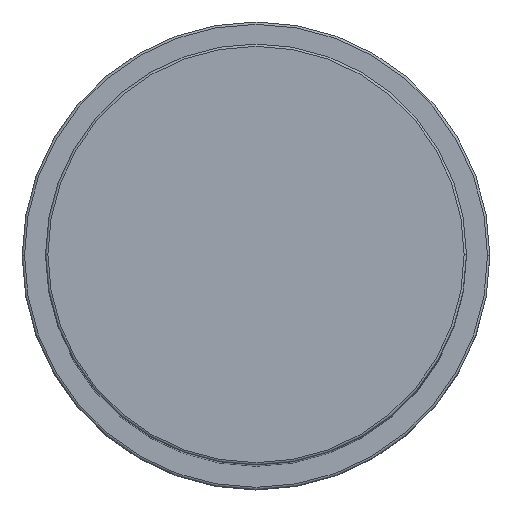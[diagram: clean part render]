
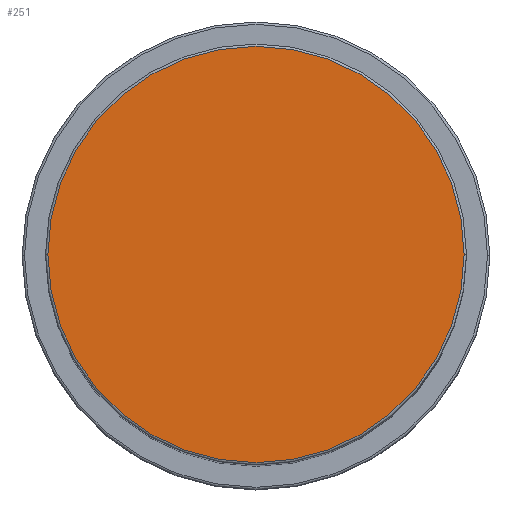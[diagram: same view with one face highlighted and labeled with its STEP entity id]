
A CAD part, top view. The second image highlights one B-rep face of the part: STEP entity #251.
In plain terms, the highlighted planar face has unit normal (0, 0, 1).
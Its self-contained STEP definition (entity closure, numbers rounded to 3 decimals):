
#187 = CARTESIAN_POINT ( 'NONE',  ( 0., 0., 184. ) ) ;
#204 = CARTESIAN_POINT ( 'NONE',  ( 0., 0., 184. ) ) ;
#244 = DIRECTION ( 'NONE',  ( 0., 0., 1. ) ) ;
#251 = ADVANCED_FACE ( 'NONE', ( #1317 ), #1031, .T. ) ;
#257 = VERTEX_POINT ( 'NONE', #732 ) ;
#588 = DIRECTION ( 'NONE',  ( 1., 0., 0. ) ) ;
#602 = DIRECTION ( 'NONE',  ( 0., 0., 1. ) ) ;
#642 = EDGE_CURVE ( 'NONE', #1347, #257, #969, .T. ) ;
#647 = AXIS2_PLACEMENT_3D ( 'NONE', #672, #244, #813 ) ;
#672 = CARTESIAN_POINT ( 'NONE',  ( 0., 0., 184. ) ) ;
#732 = CARTESIAN_POINT ( 'NONE',  ( -44.5, 0., 184. ) ) ;
#763 = CIRCLE ( 'NONE', #647, 44.5 ) ;
#813 = DIRECTION ( 'NONE',  ( 1., 0., 0. ) ) ;
#847 = ORIENTED_EDGE ( 'NONE', *, *, #642, .T. ) ;
#969 = CIRCLE ( 'NONE', #1018, 44.5 ) ;
#1012 = DIRECTION ( 'NONE',  ( 1., 0., 0. ) ) ;
#1018 = AXIS2_PLACEMENT_3D ( 'NONE', #204, #602, #588 ) ;
#1031 = PLANE ( 'NONE',  #1126 ) ;
#1048 = CARTESIAN_POINT ( 'NONE',  ( 44.5, 0., 184. ) ) ;
#1126 = AXIS2_PLACEMENT_3D ( 'NONE', #187, #1295, #1012 ) ;
#1295 = DIRECTION ( 'NONE',  ( 0., 0., 1. ) ) ;
#1317 = FACE_OUTER_BOUND ( 'NONE', #1736, .T. ) ;
#1347 = VERTEX_POINT ( 'NONE', #1048 ) ;
#1470 = EDGE_CURVE ( 'NONE', #257, #1347, #763, .T. ) ;
#1736 = EDGE_LOOP ( 'NONE', ( #847, #1737 ) ) ;
#1737 = ORIENTED_EDGE ( 'NONE', *, *, #1470, .T. ) ;
